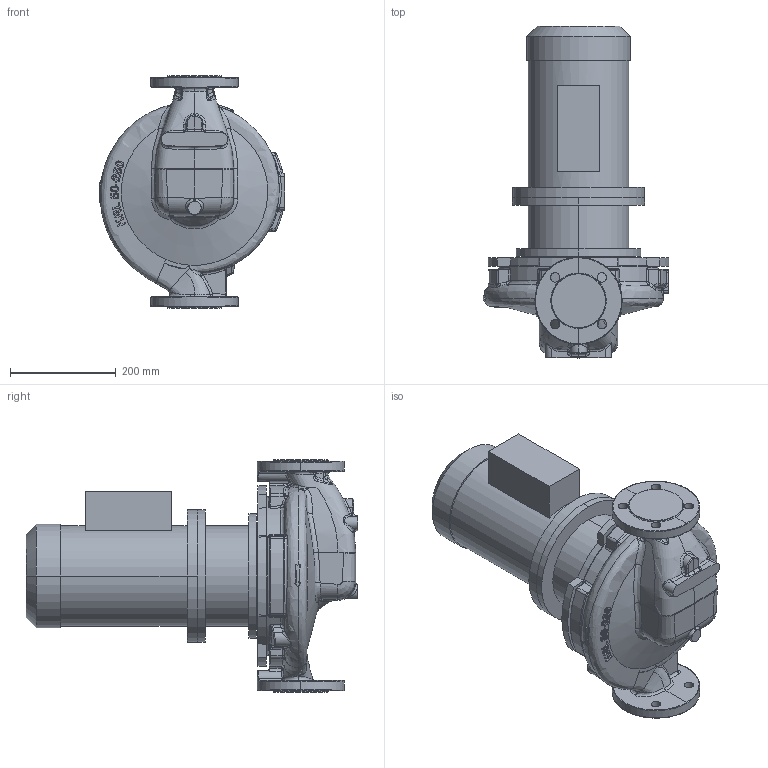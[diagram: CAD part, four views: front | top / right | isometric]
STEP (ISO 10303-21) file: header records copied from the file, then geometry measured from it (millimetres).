
FILE_DESCRIPTION (( 'STEP AP214' ), '1' );
FILE_NAME ('KRL 50-250-4-2,2.STEP', '2026-03-23T07:05:40', ( '' ), ( '' ), 'SwSTEP 2.0', 'SolidWorks 2016', '' );
FILE_SCHEMA (( 'AUTOMOTIVE_DESIGN' ));
Length unit declared in the file: millimetre
Products named in the file (1): KRL 50-250-4-2,2
Bounding box: 351.57 x 628.3 x 440 mm (x, y, z)
Volume: 26618776.5 mm3; surface area: 1188398.1 mm2
Topology: 4 solids, 4 shells, 873 faces, 2158 edges, 1302 vertices
Faces by surface type: bspline 456, plane 150, cylinder 141, sphere 47, cone 44, torus 35
Entity records: 74287 total; most frequent: CARTESIAN_POINT 47844, ORIENTED_EDGE 4272, DIRECTION 2411, EDGE_CURVE 2136, VERTEX_POINT 1302, AXIS2_PLACEMENT_3D 987, B_SPLINE_CURVE_WITH_KNOTS 960, EDGE_LOOP 920
